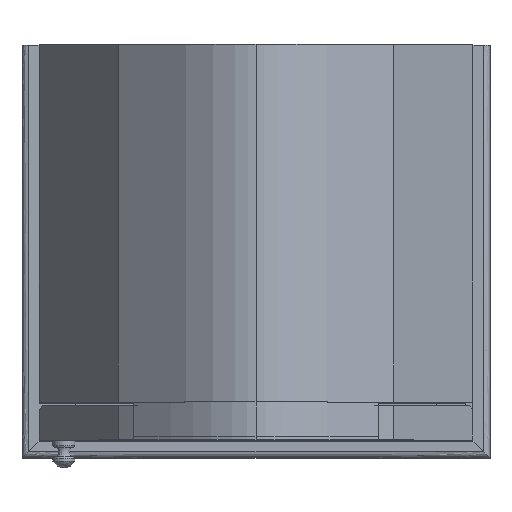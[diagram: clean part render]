
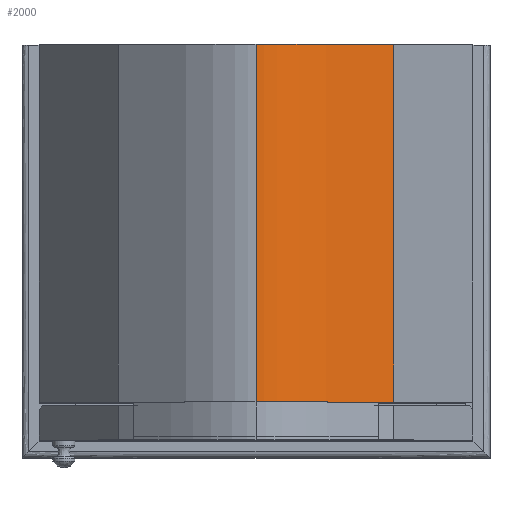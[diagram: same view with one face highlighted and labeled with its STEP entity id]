
A CAD part, top view. The second image highlights one B-rep face of the part: STEP entity #2000.
In plain terms, the highlighted free-form (B-spline) face has degree [1, 3] with [2, 5] control points.
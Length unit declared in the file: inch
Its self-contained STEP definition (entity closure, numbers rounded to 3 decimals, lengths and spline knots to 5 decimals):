
#1953 = CARTESIAN_POINT ('', (2.5, 0., 11.25));
#1954 = VERTEX_POINT ('', #1953);
#1955 = CARTESIAN_POINT ('', (2.5, 6.5, 11.25));
#1956 = VERTEX_POINT ('', #1955);
#1957 = CARTESIAN_POINT ('', (2.5, 0., 11.25));
#1958 = CARTESIAN_POINT ('', (2.5, 6.5, 11.25));
#1959 = B_SPLINE_CURVE_WITH_KNOTS ('', 1, (#1957, #1958), .UNSPECIFIED., .F., .U., (2, 2), (0., 1.), .UNSPECIFIED.);
#1960 = EDGE_CURVE ('', #1954, #1956, #1959, .T.);
#1961 = ORIENTED_EDGE ('', *, *, #1960, .T.);
#1962 = CARTESIAN_POINT ('', (0., 6.5, 12.75));
#1963 = VERTEX_POINT ('', #1962);
#1964 = CARTESIAN_POINT ('', (2.5, 6.5, 11.25));
#1965 = CARTESIAN_POINT ('', (2.38912, 6.5, 11.35606));
#1966 = CARTESIAN_POINT ('', (0.91343, 6.5, 12.68619));
#1967 = CARTESIAN_POINT ('', (0.12308, 6.5, 12.75));
#1968 = CARTESIAN_POINT ('', (0., 6.5, 12.75));
#1969 = B_SPLINE_CURVE_WITH_KNOTS ('', 3, (#1964, #1965, #1966, #1967, #1968), .UNSPECIFIED., .F., .U., (4, 1, 4), (3.75, 4.75, 5.75), .UNSPECIFIED.);
#1970 = EDGE_CURVE ('', #1956, #1963, #1969, .T.);
#1971 = ORIENTED_EDGE ('', *, *, #1970, .T.);
#1972 = CARTESIAN_POINT ('', (0., 0., 12.75));
#1973 = VERTEX_POINT ('', #1972);
#1974 = CARTESIAN_POINT ('', (0., 0., 12.75));
#1975 = CARTESIAN_POINT ('', (0., 6.5, 12.75));
#1976 = B_SPLINE_CURVE_WITH_KNOTS ('', 1, (#1974, #1975), .UNSPECIFIED., .F., .U., (2, 2), (0., 1.), .UNSPECIFIED.);
#1977 = EDGE_CURVE ('', #1973, #1963, #1976, .T.);
#1978 = ORIENTED_EDGE ('', *, *, #1977, .F.);
#1979 = CARTESIAN_POINT ('', (2.5, 0., 11.25));
#1980 = CARTESIAN_POINT ('', (2.38912, 0., 11.35606));
#1981 = CARTESIAN_POINT ('', (0.91343, 0., 12.68619));
#1982 = CARTESIAN_POINT ('', (0.12308, 0., 12.75));
#1983 = CARTESIAN_POINT ('', (0., 0., 12.75));
#1984 = B_SPLINE_CURVE_WITH_KNOTS ('', 3, (#1979, #1980, #1981, #1982, #1983), .UNSPECIFIED., .F., .U., (4, 1, 4), (3.75, 4.75, 5.75), .UNSPECIFIED.);
#1985 = EDGE_CURVE ('', #1954, #1973, #1984, .T.);
#1986 = ORIENTED_EDGE ('', *, *, #1985, .F.);
#1987 = EDGE_LOOP ('', (#1961, #1971, #1978, #1986));
#1988 = FACE_OUTER_BOUND ('', #1987, .T.);
#1989 = CARTESIAN_POINT ('', (2.5, 0., 11.25));
#1990 = CARTESIAN_POINT ('', (2.38912, 0., 11.35606));
#1991 = CARTESIAN_POINT ('', (0.91343, 0., 12.68619));
#1992 = CARTESIAN_POINT ('', (0.12308, 0., 12.75));
#1993 = CARTESIAN_POINT ('', (0., 0., 12.75));
#1994 = CARTESIAN_POINT ('', (2.5, 6.5, 11.25));
#1995 = CARTESIAN_POINT ('', (2.38912, 6.5, 11.35606));
#1996 = CARTESIAN_POINT ('', (0.91343, 6.5, 12.68619));
#1997 = CARTESIAN_POINT ('', (0.12308, 6.5, 12.75));
#1998 = CARTESIAN_POINT ('', (0., 6.5, 12.75));
#1999 = B_SPLINE_SURFACE_WITH_KNOTS ('', 1, 3, ((#1989, #1990, #1991, #1992, #1993), (#1994, #1995, #1996, #1997, #1998)), .UNSPECIFIED., .F., .F., .U., (2, 2), (4, 1, 4), (0., 1.), (3.75, 4.75, 5.75), .UNSPECIFIED.);
#2000 = ADVANCED_FACE ('', (#1988), #1999, .T.);
